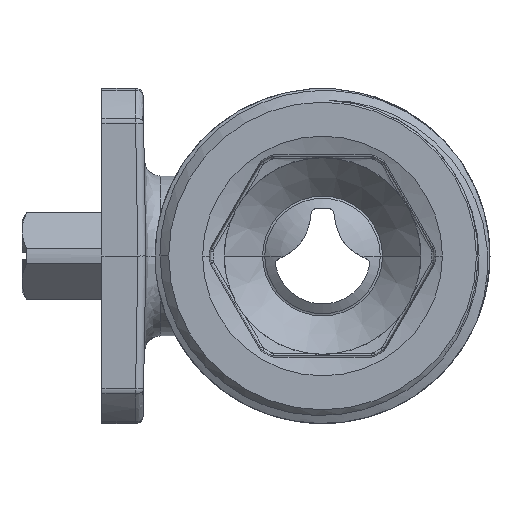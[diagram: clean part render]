
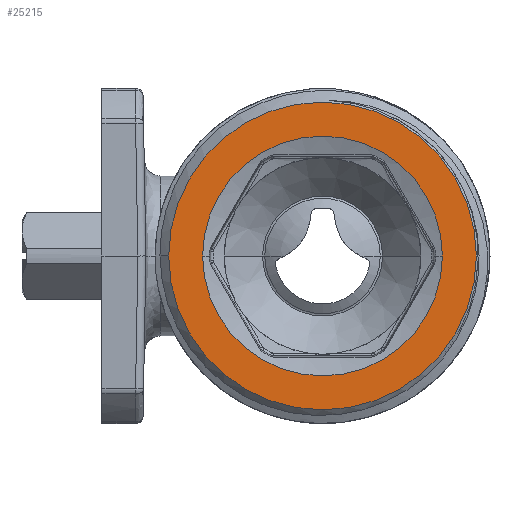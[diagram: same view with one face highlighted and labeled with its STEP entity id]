
A CAD part, left-side view. The second image highlights one B-rep face of the part: STEP entity #25215.
In plain terms, the highlighted planar face has unit normal (-1, 0, 0).
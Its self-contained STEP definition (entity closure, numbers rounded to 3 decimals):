
#3525=CARTESIAN_POINT('',(-44.7,0.,0.));
#3526=DIRECTION('',(1.,0.,0.));
#3527=DIRECTION('',(0.,-1.,0.));
#3528=AXIS2_PLACEMENT_3D('',#3525,#3526,#3527);
#3530=CARTESIAN_POINT('',(-44.7,0.,0.));
#3531=DIRECTION('',(-1.,0.,0.));
#3532=DIRECTION('',(0.,-1.,0.));
#3533=AXIS2_PLACEMENT_3D('',#3530,#3531,#3532);
#3543=CARTESIAN_POINT('',(-44.7,0.,0.));
#3544=DIRECTION('',(-1.,0.,0.));
#3545=DIRECTION('',(0.,-1.,0.));
#3546=AXIS2_PLACEMENT_3D('',#3543,#3544,#3545);
#3548=CARTESIAN_POINT('',(-44.7,0.,0.));
#3549=DIRECTION('',(1.,0.,0.));
#3550=DIRECTION('',(0.,-1.,0.));
#3551=AXIS2_PLACEMENT_3D('',#3548,#3549,#3550);
#20951=CARTESIAN_POINT('',(-44.7,-15.,0.));
#20953=VERTEX_POINT('',#20951);
#20955=CARTESIAN_POINT('',(-44.7,15.,0.));
#20957=VERTEX_POINT('',#20955);
#20959=CARTESIAN_POINT('',(-44.7,-19.25,0.));
#20960=CARTESIAN_POINT('',(-44.7,19.25,0.));
#20961=VERTEX_POINT('',#20959);
#20962=VERTEX_POINT('',#20960);
#25200=CARTESIAN_POINT('',(-44.7,0.,0.));
#25201=DIRECTION('',(1.,0.,0.));
#25202=DIRECTION('',(0.,-1.,0.));
#25203=AXIS2_PLACEMENT_3D('',#25200,#25201,#25202);
#25204=PLANE('',#25203);
#25205=ORIENTED_EDGE('',*,*,#25194,.T.);
#25206=ORIENTED_EDGE('',*,*,#24514,.F.);
#25207=EDGE_LOOP('',(#25205,#25206));
#25208=FACE_OUTER_BOUND('',#25207,.F.);
#25210=ORIENTED_EDGE('',*,*,#25209,.T.);
#25212=ORIENTED_EDGE('',*,*,#25211,.F.);
#25213=EDGE_LOOP('',(#25210,#25212));
#25214=FACE_BOUND('',#25213,.F.);
#3529=CIRCLE('',#3528,19.25);
#3534=CIRCLE('',#3533,19.25);
#3547=CIRCLE('',#3546,15.);
#3552=CIRCLE('',#3551,15.);
#24514=EDGE_CURVE('',#20961,#20962,#3534,.T.);
#25194=EDGE_CURVE('',#20961,#20962,#3529,.T.);
#25209=EDGE_CURVE('',#20953,#20957,#3547,.T.);
#25211=EDGE_CURVE('',#20953,#20957,#3552,.T.);
#25215=ADVANCED_FACE('',(#25208,#25214),#25204,.F.);
